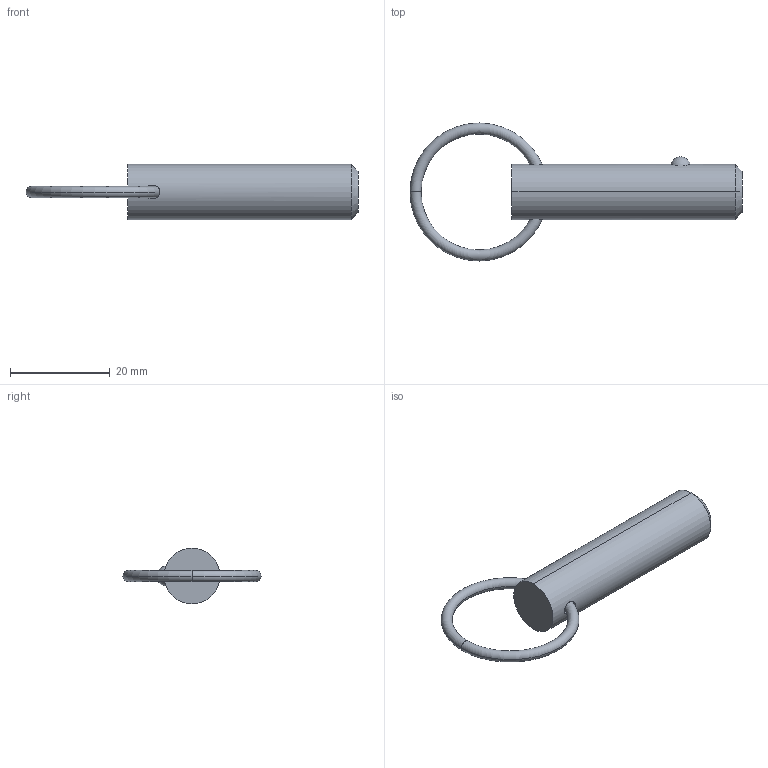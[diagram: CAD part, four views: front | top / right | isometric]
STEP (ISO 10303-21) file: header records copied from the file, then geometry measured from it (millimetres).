
FILE_DESCRIPTION (( 'STEP AP203' ), '1' );
FILE_NAME ('33012.W4310.step', '2024-11-01T14:11:02', ( '' ), ( '' ), 'SwSTEP 2.0', 'SolidWorks 2019', '' );
FILE_SCHEMA (( 'CONFIG_CONTROL_DESIGN' ));
Length unit declared in the file: millimetre
Products named in the file (3): Part2_33012.W4310; Part1_33012.W4310; 33012.W4310
Assembly tree (2 placements, depth 2):
  33012.W4310
    Part1_33012.W4310
    Part2_33012.W4310
Bounding box: 66.43 x 27.62 x 11.11 mm (x, y, z)
Volume: 4682.8 mm3; surface area: 2420.1 mm2
Topology: 2 solids, 2 shells, 16 faces, 31 edges, 18 vertices
Faces by surface type: torus 8, sphere 2, cone 2, cylinder 2, plane 2
Entity records: 863 total; most frequent: CARTESIAN_POINT 220, DIRECTION 88, ORIENTED_EDGE 62, AXIS2_PLACEMENT_3D 42, EDGE_CURVE 31, PERSON_AND_ORGANIZATION 26, CIRCLE 21, LOCAL_TIME 19
